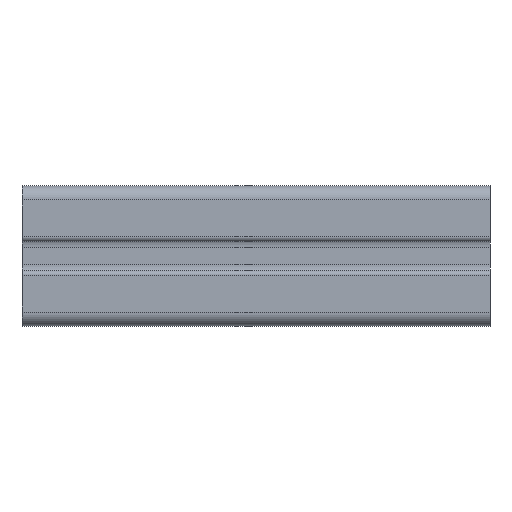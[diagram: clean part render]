
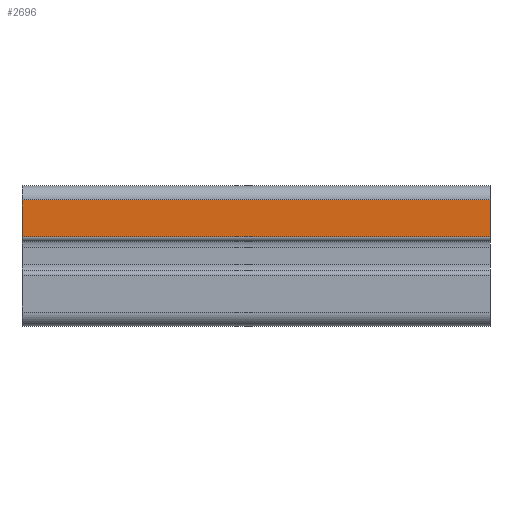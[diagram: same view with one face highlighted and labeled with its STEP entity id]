
A CAD part, left-side view. The second image highlights one B-rep face of the part: STEP entity #2696.
In plain terms, the highlighted planar face has unit normal (-1, 0, 0).
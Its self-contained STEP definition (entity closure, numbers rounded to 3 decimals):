
#10 = VECTOR ( 'NONE', #2083, 1000. ) ;
#151 = CARTESIAN_POINT ( 'NONE',  ( -15., 50., 4.1 ) ) ;
#185 = AXIS2_PLACEMENT_3D ( 'NONE', #151, #785, #2065 ) ;
#201 = ORIENTED_EDGE ( 'NONE', *, *, #390, .F. ) ;
#215 = CARTESIAN_POINT ( 'NONE',  ( -15., -50., 4.1 ) ) ;
#230 = CARTESIAN_POINT ( 'NONE',  ( -15., -50., 12. ) ) ;
#316 = CARTESIAN_POINT ( 'NONE',  ( -15., 50., 4.1 ) ) ;
#347 = ORIENTED_EDGE ( 'NONE', *, *, #355, .T. ) ;
#355 = EDGE_CURVE ( 'NONE', #2597, #429, #768, .T. ) ;
#390 = EDGE_CURVE ( 'NONE', #631, #2622, #2276, .T. ) ;
#429 = VERTEX_POINT ( 'NONE', #230 ) ;
#533 = VECTOR ( 'NONE', #2452, 1000. ) ;
#600 = DIRECTION ( 'NONE',  ( 0., 0., 1. ) ) ;
#608 = CARTESIAN_POINT ( 'NONE',  ( -15., 50., 12. ) ) ;
#631 = VERTEX_POINT ( 'NONE', #316 ) ;
#644 = CARTESIAN_POINT ( 'NONE',  ( -15., 50., 4.1 ) ) ;
#768 = LINE ( 'NONE', #1625, #533 ) ;
#785 = DIRECTION ( 'NONE',  ( 1., 0., 0. ) ) ;
#799 = PLANE ( 'NONE',  #185 ) ;
#860 = LINE ( 'NONE', #1458, #1841 ) ;
#867 = LINE ( 'NONE', #644, #10 ) ;
#890 = ORIENTED_EDGE ( 'NONE', *, *, #2564, .T. ) ;
#967 = EDGE_CURVE ( 'NONE', #2622, #429, #860, .T. ) ;
#997 = FACE_OUTER_BOUND ( 'NONE', #2509, .T. ) ;
#1033 = DIRECTION ( 'NONE',  ( 0., -1., 0. ) ) ;
#1458 = CARTESIAN_POINT ( 'NONE',  ( -15., 50., 12. ) ) ;
#1625 = CARTESIAN_POINT ( 'NONE',  ( -15., -50., 4.1 ) ) ;
#1627 = VECTOR ( 'NONE', #600, 1000. ) ;
#1764 = ORIENTED_EDGE ( 'NONE', *, *, #967, .F. ) ;
#1841 = VECTOR ( 'NONE', #1033, 1000. ) ;
#2033 = CARTESIAN_POINT ( 'NONE',  ( -15., 50., 4.1 ) ) ;
#2065 = DIRECTION ( 'NONE',  ( 0., 0., -1. ) ) ;
#2083 = DIRECTION ( 'NONE',  ( 0., -1., 0. ) ) ;
#2276 = LINE ( 'NONE', #2033, #1627 ) ;
#2452 = DIRECTION ( 'NONE',  ( 0., 0., 1. ) ) ;
#2509 = EDGE_LOOP ( 'NONE', ( #347, #1764, #201, #890 ) ) ;
#2564 = EDGE_CURVE ( 'NONE', #631, #2597, #867, .T. ) ;
#2597 = VERTEX_POINT ( 'NONE', #215 ) ;
#2622 = VERTEX_POINT ( 'NONE', #608 ) ;
#2696 = ADVANCED_FACE ( 'NONE', ( #997 ), #799, .F. ) ;
